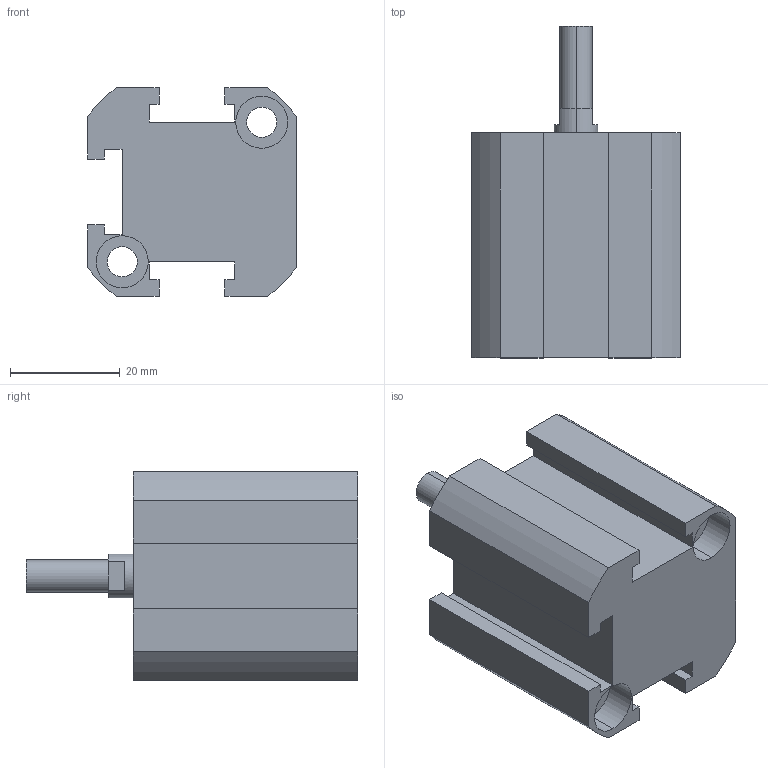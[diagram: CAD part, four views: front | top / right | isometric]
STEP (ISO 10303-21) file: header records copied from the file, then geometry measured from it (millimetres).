
FILE_DESCRIPTION (( 'STEP AP203' ), '1' );
FILE_NAME ('XG#M2-20D-10.STEP', '2016-05-24T02:11:09', ( '' ), ( '' ), 'SwSTEP 2.0', 'SolidWorks 2014', '' );
FILE_SCHEMA (( 'CONFIG_CONTROL_DESIGN' ));
Length unit declared in the file: millimetre
Products named in the file (1): XG#M2-20D-10
Bounding box: 38 x 60.5 x 38 mm (x, y, z)
Volume: 43406.3 mm3; surface area: 12975.3 mm2
Topology: 1 solids, 1 shells, 89 faces, 227 edges, 147 vertices
Faces by surface type: plane 46, cylinder 39, cone 4
Entity records: 2767 total; most frequent: DIRECTION 488, CARTESIAN_POINT 460, ORIENTED_EDGE 446, EDGE_CURVE 223, AXIS2_PLACEMENT_3D 175, VERTEX_POINT 147, VECTOR 138, LINE 138
